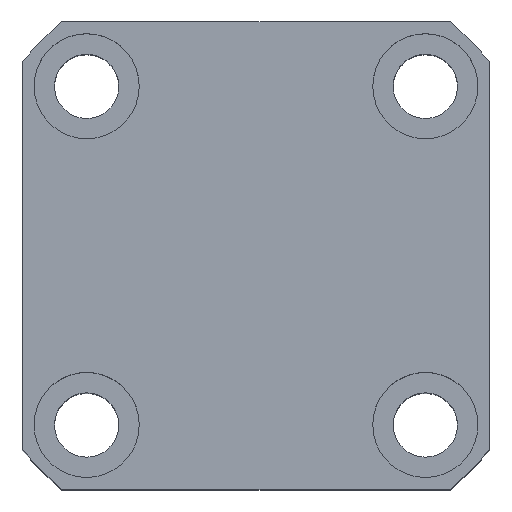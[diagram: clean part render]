
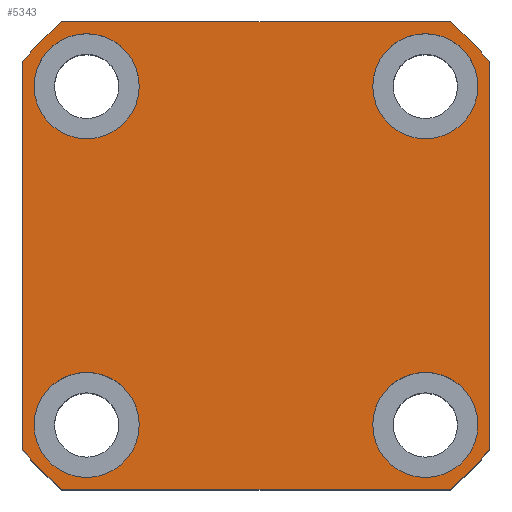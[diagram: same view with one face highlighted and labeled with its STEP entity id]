
A CAD part, top view. The second image highlights one B-rep face of the part: STEP entity #5343.
In plain terms, the highlighted planar face has unit normal (0, 0, 1).
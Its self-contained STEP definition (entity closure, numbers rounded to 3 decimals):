
#2922=FACE_BOUND('',#6360,.T.);
#2923=FACE_BOUND('',#6361,.T.);
#2924=FACE_BOUND('',#6362,.T.);
#2925=FACE_BOUND('',#6363,.T.);
#2926=FACE_BOUND('',#6364,.T.);
#3096=LINE('',#21440,#3972);
#3105=LINE('',#22179,#3981);
#3109=LINE('',#22191,#3985);
#3112=LINE('',#22200,#3988);
#3972=VECTOR('',#13202,1.);
#3981=VECTOR('',#13373,1.);
#3985=VECTOR('',#13385,1.);
#3988=VECTOR('',#13396,1.);
#4918=PLANE('',#12667);
#5343=ADVANCED_FACE('',(#2922,#2923,#2924,#2925,#2926),#4918,.T.);
#6360=EDGE_LOOP('',(#7398));
#6361=EDGE_LOOP('',(#7399));
#6362=EDGE_LOOP('',(#7400));
#6363=EDGE_LOOP('',(#7401));
#6364=EDGE_LOOP('',(#7402,#7403,#7404,#7405,#7406,#7407,#7408,#7409));
#6903=CIRCLE('',#12616,9.);
#6905=CIRCLE('',#12619,9.);
#6907=CIRCLE('',#12622,9.);
#6909=CIRCLE('',#12625,9.);
#6928=CIRCLE('',#12653,52.);
#6930=CIRCLE('',#12656,52.);
#6932=CIRCLE('',#12660,52.);
#6934=CIRCLE('',#12664,52.);
#7398=ORIENTED_EDGE('',*,*,#10984,.F.);
#7399=ORIENTED_EDGE('',*,*,#10986,.F.);
#7400=ORIENTED_EDGE('',*,*,#10988,.F.);
#7401=ORIENTED_EDGE('',*,*,#10990,.F.);
#7402=ORIENTED_EDGE('',*,*,#11009,.T.);
#7403=ORIENTED_EDGE('',*,*,#10912,.T.);
#7404=ORIENTED_EDGE('',*,*,#11013,.T.);
#7405=ORIENTED_EDGE('',*,*,#11016,.T.);
#7406=ORIENTED_EDGE('',*,*,#11019,.T.);
#7407=ORIENTED_EDGE('',*,*,#11022,.T.);
#7408=ORIENTED_EDGE('',*,*,#11025,.T.);
#7409=ORIENTED_EDGE('',*,*,#11027,.T.);
#9870=VERTEX_POINT('',#21439);
#9871=VERTEX_POINT('',#21441);
#9939=VERTEX_POINT('',#22104);
#9941=VERTEX_POINT('',#22109);
#9943=VERTEX_POINT('',#22114);
#9945=VERTEX_POINT('',#22119);
#9964=VERTEX_POINT('',#22166);
#9966=VERTEX_POINT('',#22172);
#9968=VERTEX_POINT('',#22178);
#9970=VERTEX_POINT('',#22184);
#9972=VERTEX_POINT('',#22190);
#9974=VERTEX_POINT('',#22196);
#10912=EDGE_CURVE('',#9871,#9870,#3096,.T.);
#10984=EDGE_CURVE('',#9939,#9939,#6903,.T.);
#10986=EDGE_CURVE('',#9941,#9941,#6905,.T.);
#10988=EDGE_CURVE('',#9943,#9943,#6907,.T.);
#10990=EDGE_CURVE('',#9945,#9945,#6909,.T.);
#11009=EDGE_CURVE('',#9964,#9871,#6928,.T.);
#11013=EDGE_CURVE('',#9870,#9966,#6930,.T.);
#11016=EDGE_CURVE('',#9966,#9968,#3105,.T.);
#11019=EDGE_CURVE('',#9968,#9970,#6932,.T.);
#11022=EDGE_CURVE('',#9970,#9972,#3109,.T.);
#11025=EDGE_CURVE('',#9972,#9974,#6934,.T.);
#11027=EDGE_CURVE('',#9974,#9964,#3112,.T.);
#12616=AXIS2_PLACEMENT_3D('',#22103,#13285,#13286);
#12619=AXIS2_PLACEMENT_3D('',#22108,#13291,#13292);
#12622=AXIS2_PLACEMENT_3D('',#22113,#13297,#13298);
#12625=AXIS2_PLACEMENT_3D('',#22118,#13303,#13304);
#12653=AXIS2_PLACEMENT_3D('',#22165,#13359,#13360);
#12656=AXIS2_PLACEMENT_3D('',#22173,#13367,#13368);
#12660=AXIS2_PLACEMENT_3D('',#22185,#13379,#13380);
#12664=AXIS2_PLACEMENT_3D('',#22197,#13391,#13392);
#12667=AXIS2_PLACEMENT_3D('',#22202,#13399,#13400);
#13202=DIRECTION('',(0.,-1.,0.));
#13285=DIRECTION('',(0.,0.,1.));
#13286=DIRECTION('',(1.,0.,0.));
#13291=DIRECTION('',(0.,0.,1.));
#13292=DIRECTION('',(1.,0.,0.));
#13297=DIRECTION('',(0.,0.,1.));
#13298=DIRECTION('',(1.,0.,0.));
#13303=DIRECTION('',(0.,0.,1.));
#13304=DIRECTION('',(1.,0.,0.));
#13359=DIRECTION('',(0.,0.,1.));
#13360=DIRECTION('',(1.,0.,0.));
#13367=DIRECTION('',(0.,0.,1.));
#13368=DIRECTION('',(1.,0.,0.));
#13373=DIRECTION('',(1.,0.,0.));
#13379=DIRECTION('',(0.,0.,1.));
#13380=DIRECTION('',(1.,0.,0.));
#13385=DIRECTION('',(0.,1.,0.));
#13391=DIRECTION('',(0.,0.,1.));
#13392=DIRECTION('',(1.,0.,0.));
#13396=DIRECTION('',(-1.,0.,0.));
#13399=DIRECTION('',(0.,0.,1.));
#13400=DIRECTION('',(-1.,0.,0.));
#21439=CARTESIAN_POINT('',(-40.,-33.226,42.5));
#21440=CARTESIAN_POINT('',(-40.,33.226,42.5));
#21441=CARTESIAN_POINT('',(-40.,33.226,42.5));
#22103=CARTESIAN_POINT('',(29.,-29.,42.5));
#22104=CARTESIAN_POINT('',(38.,-29.,42.5));
#22108=CARTESIAN_POINT('',(-29.,-29.,42.5));
#22109=CARTESIAN_POINT('',(-20.,-29.,42.5));
#22113=CARTESIAN_POINT('',(-29.,29.,42.5));
#22114=CARTESIAN_POINT('',(-20.,29.,42.5));
#22118=CARTESIAN_POINT('',(29.,29.,42.5));
#22119=CARTESIAN_POINT('',(38.,29.,42.5));
#22165=CARTESIAN_POINT('',(0.,0.,42.5));
#22166=CARTESIAN_POINT('',(-33.226,40.,42.5));
#22172=CARTESIAN_POINT('',(-33.226,-40.,42.5));
#22173=CARTESIAN_POINT('',(0.,0.,42.5));
#22178=CARTESIAN_POINT('',(33.226,-40.,42.5));
#22179=CARTESIAN_POINT('',(-33.226,-40.,42.5));
#22184=CARTESIAN_POINT('',(40.,-33.226,42.5));
#22185=CARTESIAN_POINT('',(0.,0.,42.5));
#22190=CARTESIAN_POINT('',(40.,33.226,42.5));
#22191=CARTESIAN_POINT('',(40.,33.226,42.5));
#22196=CARTESIAN_POINT('',(33.226,40.,42.5));
#22197=CARTESIAN_POINT('',(0.,0.,42.5));
#22200=CARTESIAN_POINT('',(-33.226,40.,42.5));
#22202=CARTESIAN_POINT('',(0.,0.,42.5));
